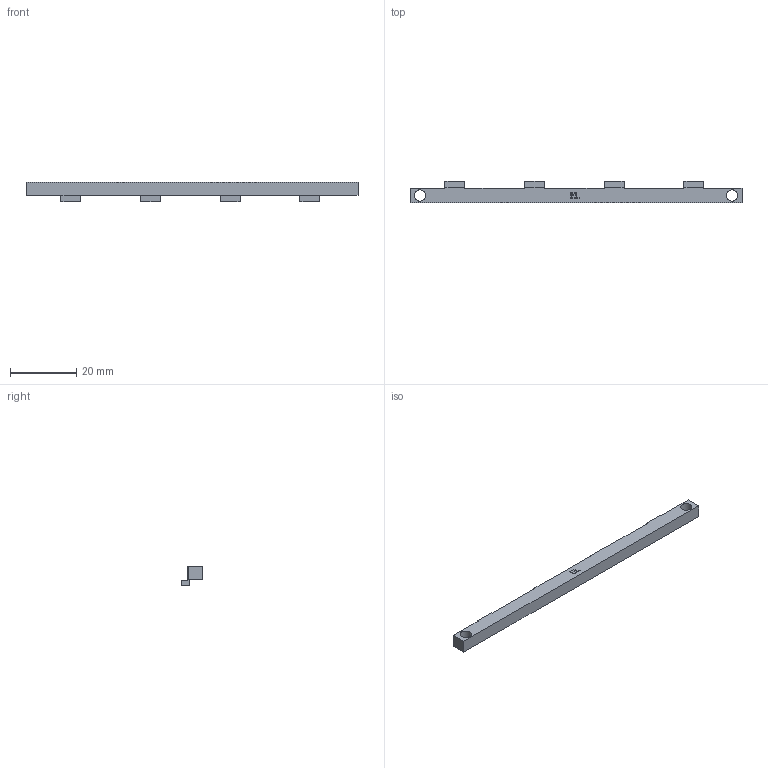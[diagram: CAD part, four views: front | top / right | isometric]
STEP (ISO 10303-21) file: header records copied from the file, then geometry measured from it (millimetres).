
FILE_DESCRIPTION(('Open CASCADE Model'),'2;1');
FILE_NAME('Open CASCADE Shape Model','2026-10-07T10:51:43',('Author'),( 'Open CASCADE'),'Open CASCADE STEP processor 7.8','Open CASCADE 7.8' ,'Unknown');
FILE_SCHEMA(('AUTOMOTIVE_DESIGN { 1 0 10303 214 1 1 1 1 }'));
Length unit declared in the file: millimetre
Products named in the file (1): Open CASCADE STEP translator 7.8 11
Bounding box: 100 x 6.5 x 5.95 mm (x, y, z)
Volume: 1811.4 mm3; surface area: 2009.3 mm2
Topology: 1 solids, 1 shells, 60 faces, 168 edges, 112 vertices
Faces by surface type: plane 58, cylinder 2
Full cylindrical faces by diameter (mm): 3.4 x2
Entity records: 4030 total; most frequent: CARTESIAN_POINT 745, DIRECTION 562, LINE 428, VECTOR 428, ORIENTED_EDGE 336, PCURVE 336, DEFINITIONAL_REPRESENTATION 336, EDGE_CURVE 168
